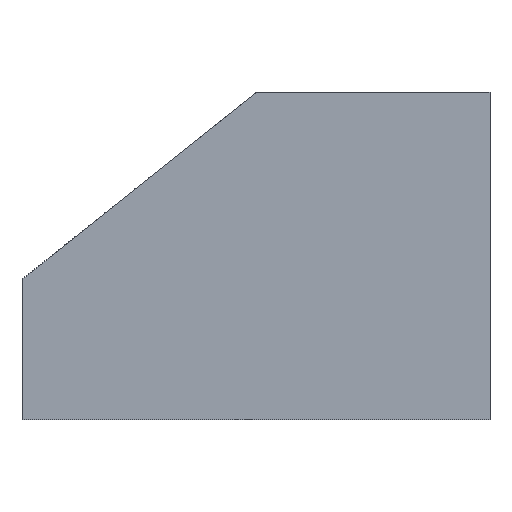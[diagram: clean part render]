
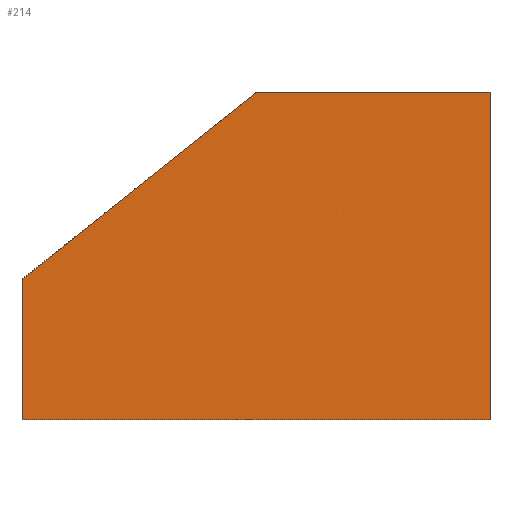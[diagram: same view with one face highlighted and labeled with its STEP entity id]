
A CAD part, front view. The second image highlights one B-rep face of the part: STEP entity #214.
In plain terms, the highlighted planar face has unit normal (0, -1, 0).
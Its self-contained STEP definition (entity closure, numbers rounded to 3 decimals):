
#26=FACE_OUTER_BOUND('',#38,.T.);
#38=EDGE_LOOP('',(#186,#187,#188,#189,#190));
#54=LINE('',#334,#81);
#59=LINE('',#344,#86);
#61=LINE('',#348,#88);
#63=LINE('',#352,#90);
#65=LINE('',#355,#92);
#81=VECTOR('',#274,10.);
#86=VECTOR('',#285,10.);
#88=VECTOR('',#289,10.);
#90=VECTOR('',#293,10.);
#92=VECTOR('',#297,10.);
#104=VERTEX_POINT('',#331);
#105=VERTEX_POINT('',#333);
#107=VERTEX_POINT('',#343);
#108=VERTEX_POINT('',#347);
#109=VERTEX_POINT('',#351);
#125=EDGE_CURVE('',#105,#104,#54,.T.);
#130=EDGE_CURVE('',#107,#105,#59,.T.);
#132=EDGE_CURVE('',#108,#107,#61,.T.);
#134=EDGE_CURVE('',#109,#108,#63,.T.);
#136=EDGE_CURVE('',#104,#109,#65,.T.);
#186=ORIENTED_EDGE('',*,*,#125,.T.);
#187=ORIENTED_EDGE('',*,*,#136,.T.);
#188=ORIENTED_EDGE('',*,*,#134,.T.);
#189=ORIENTED_EDGE('',*,*,#132,.T.);
#190=ORIENTED_EDGE('',*,*,#130,.T.);
#202=PLANE('',#246);
#214=ADVANCED_FACE('',(#26),#202,.T.);
#246=AXIS2_PLACEMENT_3D('',#356,#298,#299);
#274=DIRECTION('',(-1.,0.,0.));
#285=DIRECTION('',(0.,0.,1.));
#289=DIRECTION('',(1.,0.,0.));
#293=DIRECTION('',(0.,0.,-1.));
#297=DIRECTION('',(-0.781,0.,-0.625));
#298=DIRECTION('center_axis',(0.,-1.,0.));
#299=DIRECTION('ref_axis',(0.,0.,-1.));
#331=CARTESIAN_POINT('',(0.,-20.,35.));
#333=CARTESIAN_POINT('',(50.,-20.,35.));
#334=CARTESIAN_POINT('',(0.,-20.,35.));
#343=CARTESIAN_POINT('',(50.,-20.,-35.));
#344=CARTESIAN_POINT('',(50.,-20.,35.));
#347=CARTESIAN_POINT('',(-50.,-20.,-35.));
#348=CARTESIAN_POINT('',(50.,-20.,-35.));
#351=CARTESIAN_POINT('',(-50.,-20.,-5.));
#352=CARTESIAN_POINT('',(-50.,-20.,-35.));
#355=CARTESIAN_POINT('',(-50.,-20.,-5.));
#356=CARTESIAN_POINT('Origin',(0.,-20.,0.));
